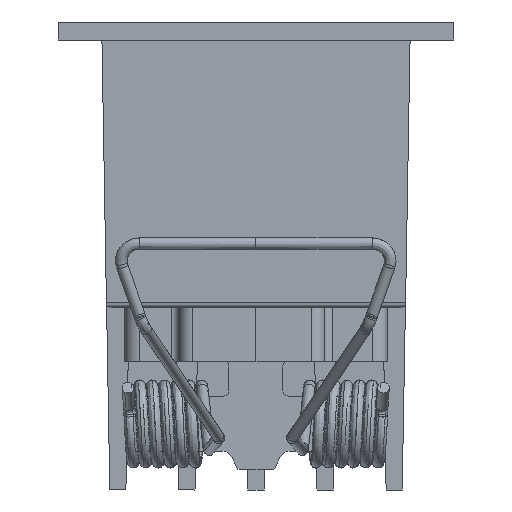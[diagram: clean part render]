
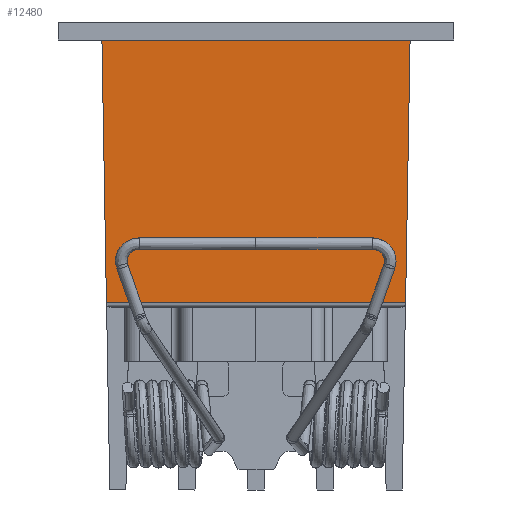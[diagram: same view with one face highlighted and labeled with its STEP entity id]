
A CAD part, front view. The second image highlights one B-rep face of the part: STEP entity #12480.
In plain terms, the highlighted planar face has unit normal (0, -1, -0.018).
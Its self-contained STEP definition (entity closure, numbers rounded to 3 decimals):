
#2296=FACE_OUTER_BOUND('',#3008,.T.);
#3008=EDGE_LOOP('',(#10834,#10835,#10836,#10837));
#3975=LINE('',#18518,#4875);
#3991=LINE('',#18556,#4891);
#3998=LINE('',#18569,#4898);
#4008=LINE('',#18600,#4908);
#4875=VECTOR('',#15445,1.);
#4891=VECTOR('',#15501,1.);
#4898=VECTOR('',#15516,304.8);
#4908=VECTOR('',#15554,304.8);
#5938=VERTEX_POINT('',#18515);
#5939=VERTEX_POINT('',#18517);
#5940=VERTEX_POINT('',#18553);
#5941=VERTEX_POINT('',#18555);
#7817=EDGE_CURVE('',#5939,#5938,#3975,.T.);
#7833=EDGE_CURVE('',#5941,#5940,#3991,.T.);
#7840=EDGE_CURVE('',#5938,#5941,#3998,.T.);
#7856=EDGE_CURVE('',#5939,#5940,#4008,.T.);
#10834=ORIENTED_EDGE('',*,*,#7817,.T.);
#10835=ORIENTED_EDGE('',*,*,#7840,.T.);
#10836=ORIENTED_EDGE('',*,*,#7833,.T.);
#10837=ORIENTED_EDGE('',*,*,#7856,.F.);
#12021=PLANE('',#13395);
#12480=ADVANCED_FACE('',(#2296),#12021,.T.);
#13395=AXIS2_PLACEMENT_3D('',#18599,#15552,#15553);
#15445=DIRECTION('',(0.017,-0.017,1.));
#15501=DIRECTION('',(0.017,0.017,-1.));
#15516=DIRECTION('',(-1.,0.,0.));
#15552=DIRECTION('center_axis',(0.,-1.,
-0.017));
#15553=DIRECTION('ref_axis',(-1.,0.,0.));
#15554=DIRECTION('',(-1.,0.,0.));
#18515=CARTESIAN_POINT('',(17.118,-123.723,0.));
#18517=CARTESIAN_POINT('',(16.62,-123.213,-29.193));
#18518=CARTESIAN_POINT('',(16.679,-123.284,-25.164));
#18553=CARTESIAN_POINT('',(-16.62,-123.213,-29.193));
#18555=CARTESIAN_POINT('',(-17.118,-123.723,0.));
#18556=CARTESIAN_POINT('',(-16.86,-123.464,-14.818));
#18569=CARTESIAN_POINT('',(17.13,-123.723,0.));
#18599=CARTESIAN_POINT('Origin',(17.13,-123.723,0.));
#18600=CARTESIAN_POINT('',(16.62,-123.213,-29.193));
